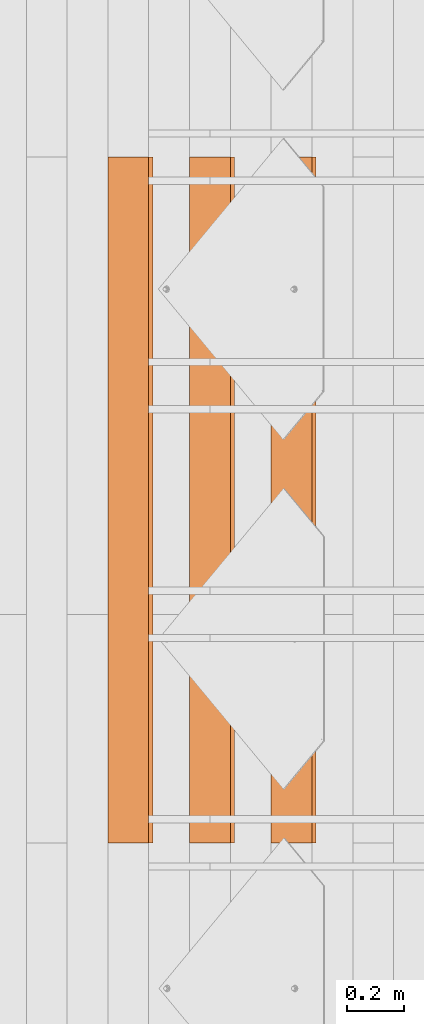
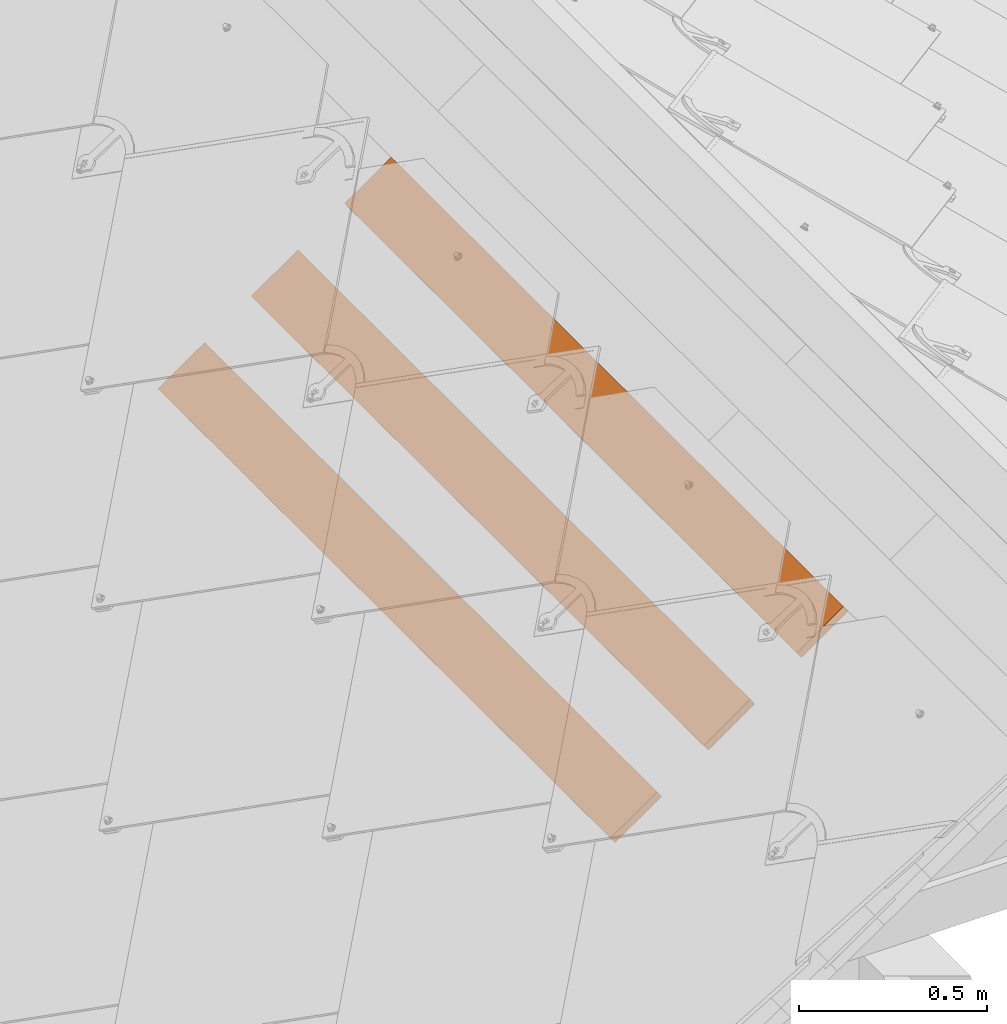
# One storey, part 57 of 151: 3 proxies, 1 element without a shape of its own.
"""IFC2X3 building model written with IfcOpenShell, lengths in millimetres."""

from ifc_helpers import new_model, entity, si_unit, converted_unit, derived_unit, direction, frame, frame_2d, origin, place, context, subcontext, project, spatial, rectangle, extrude, source, transform, mapped, material, type_object, type_shapes, element, aggregate, save


model = new_model("IFC2X3")

# Units and contexts
model_context = context("Model", 3, precision=0.01, world=origin(), true_north=direction((6.12303176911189e-17, 1.0)))
body_context = subcontext(model_context, "Body", "Model", "MODEL_VIEW")
ifc_project = project(units=[si_unit("LENGTHUNIT", "METRE", prefix="MILLI"), si_unit("AREAUNIT", "SQUARE_METRE"), si_unit("VOLUMEUNIT", "CUBIC_METRE"), converted_unit("PLANEANGLEUNIT", "DEGREE", entity("IfcRatioMeasure", 0.0174532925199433), si_unit("PLANEANGLEUNIT", "RADIAN"), dimensions=[0, 0, 0, 0, 0, 0, 0]), si_unit("MASSUNIT", "GRAM", prefix="KILO"), derived_unit("MASSDENSITYUNIT", [(si_unit("MASSUNIT", "GRAM", prefix="KILO"), 1), (si_unit("LENGTHUNIT", "METRE"), -3)]), si_unit("TIMEUNIT", "SECOND"), si_unit("FREQUENCYUNIT", "HERTZ"), si_unit("THERMODYNAMICTEMPERATUREUNIT", "DEGREE_CELSIUS"), derived_unit("THERMALTRANSMITTANCEUNIT", [(si_unit("MASSUNIT", "GRAM", prefix="KILO"), 1), (si_unit("THERMODYNAMICTEMPERATUREUNIT", "KELVIN"), -1), (si_unit("TIMEUNIT", "SECOND"), -3)]), derived_unit("VOLUMETRICFLOWRATEUNIT", [(si_unit("LENGTHUNIT", "METRE"), 3), (si_unit("TIMEUNIT", "SECOND"), -1)]), si_unit("ELECTRICCURRENTUNIT", "AMPERE"), si_unit("ELECTRICVOLTAGEUNIT", "VOLT"), si_unit("POWERUNIT", "WATT"), si_unit("FORCEUNIT", "NEWTON", prefix="KILO"), si_unit("ILLUMINANCEUNIT", "LUX"), si_unit("LUMINOUSFLUXUNIT", "LUMEN"), si_unit("LUMINOUSINTENSITYUNIT", "CANDELA"), derived_unit("USERDEFINED", [(si_unit("MASSUNIT", "GRAM", prefix="KILO"), -1), (si_unit("LENGTHUNIT", "METRE"), -2), (si_unit("TIMEUNIT", "SECOND"), 3), (si_unit("LUMINOUSFLUXUNIT", "LUMEN"), 1)]), derived_unit("LINEARVELOCITYUNIT", [(si_unit("LENGTHUNIT", "METRE"), 1), (si_unit("TIMEUNIT", "SECOND"), -1)]), si_unit("PRESSUREUNIT", "PASCAL"), derived_unit("USERDEFINED", [(si_unit("LENGTHUNIT", "METRE"), -2), (si_unit("MASSUNIT", "GRAM", prefix="KILO"), 1), (si_unit("TIMEUNIT", "SECOND"), -2)])], contexts=[model_context])

# Site, building, storey
site_placement = place(None, origin())
site = spatial("IfcSite", under=ifc_project, at=site_placement, Name="Default", CompositionType="ELEMENT")
building_placement = place(site_placement, origin())
building = spatial("IfcBuilding", under=site, at=building_placement, CompositionType="ELEMENT")
storey_placement = place(building_placement, origin())
storey = spatial("IfcBuildingStorey", under=building, at=storey_placement, Name="Level 1", CompositionType="ELEMENT", Elevation=0.0)

# Assembly, proxies
assembly_placement = place(storey_placement, origin())
assembly = element("IfcElementAssembly", 1, at=assembly_placement, inside=storey, Name="Structural Framing Assembly:Roof Construction Assembly", ObjectType="Structural Framing Assembly:Roof Construction Assembly", AssemblyPlace="NOTDEFINED", PredefinedType="USERDEFINED")
ifc_material = material(Name="Wood - Generic - Wood For Showcase")
building_element_proxy_type_1 = type_object("IfcBuildingElementProxyType", Name="Structural Framing 15", PredefinedType="NOTDEFINED", material=ifc_material)
shared_shape_1 = source(origin(), body_context, "Body", "SweptSolid", [
    extrude(rectangle(XDim=24.9999999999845, YDim=174.344679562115, at=frame_2d((-1.77635683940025e-13, -4.54747350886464e-13), x_axis=(0.0, 1.0))), frame((1128.20180147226, 1595.5508021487, 2760.23940055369), z_axis=(0.0, 1.0, 0.0), x_axis=(-0.819152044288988, 0.0, -0.573576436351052)), (0.0, 0.0, 1.0), 2400.0),
])
type_shapes(building_element_proxy_type_1, [shared_shape_1])
proxy_1_placement = place(assembly_placement, frame((-370.956530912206, -3340.0, -300.0)))
proxy_1 = element("IfcBuildingElementProxy", 2, at=proxy_1_placement, type_object=building_element_proxy_type_1, material=ifc_material, Name="Structural Framing 31:Structural Framing 15", ObjectType="Structural Framing 31:Structural Framing 15", context=body_context, shape_type="MappedRepresentation", body=[
    mapped(shared_shape_1, transform((0.0, 0.0, 0.0), scale=1.0)),
])
building_element_proxy_type_2 = type_object("IfcBuildingElementProxyType", Name="Structural Framing 15", PredefinedType="NOTDEFINED", material=ifc_material)
shared_shape_2 = source(origin(), body_context, "Body", "SweptSolid", [
    extrude(rectangle(XDim=24.9999999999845, YDim=174.344679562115, at=frame_2d((-1.77635683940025e-13, -4.54747350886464e-13), x_axis=(0.0, 1.0))), frame((1128.20180147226, 1595.55080214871, 2760.23940055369), z_axis=(0.0, 1.0, 0.0), x_axis=(-0.819152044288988, 0.0, -0.573576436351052)), (0.0, 0.0, 1.0), 2400.0),
])
type_shapes(building_element_proxy_type_2, [shared_shape_2])
proxy_2_placement = place(assembly_placement, frame((-656.586132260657, -3340.0, -500.0)))
proxy_2 = element("IfcBuildingElementProxy", 3, at=proxy_2_placement, type_object=building_element_proxy_type_2, material=ifc_material, Name="Structural Framing 41:Structural Framing 15", ObjectType="Structural Framing 41:Structural Framing 15", context=body_context, shape_type="MappedRepresentation", body=[
    mapped(shared_shape_2, transform((0.0, 0.0, 0.0), scale=1.0)),
])
building_element_proxy_type_3 = type_object("IfcBuildingElementProxyType", Name="Structural Framing 15", PredefinedType="NOTDEFINED", material=ifc_material)
shared_shape_3 = source(origin(), body_context, "Body", "SweptSolid", [
    extrude(rectangle(XDim=24.9999999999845, YDim=174.344679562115, at=frame_2d((-1.77635683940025e-13, -4.54747350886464e-13), x_axis=(0.0, 1.0))), frame((1128.20180147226, 1595.55080214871, 2760.23940055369), z_axis=(0.0, 1.0, 0.0), x_axis=(-0.819152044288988, 0.0, -0.573576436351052)), (0.0, 0.0, 1.0), 2400.0),
])
type_shapes(building_element_proxy_type_3, [shared_shape_3])
proxy_3_placement = place(assembly_placement, frame((-942.215733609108, -3340.0, -700.0)))
proxy_3 = element("IfcBuildingElementProxy", 4, at=proxy_3_placement, type_object=building_element_proxy_type_3, material=ifc_material, Name="Structural Framing 51:Structural Framing 15", ObjectType="Structural Framing 51:Structural Framing 15", context=body_context, shape_type="MappedRepresentation", body=[
    mapped(shared_shape_3, transform((0.0, 0.0, 0.0), scale=1.0)),
])
aggregate(assembly, [proxy_1, proxy_2, proxy_3])

save(model, "model.ifc")
